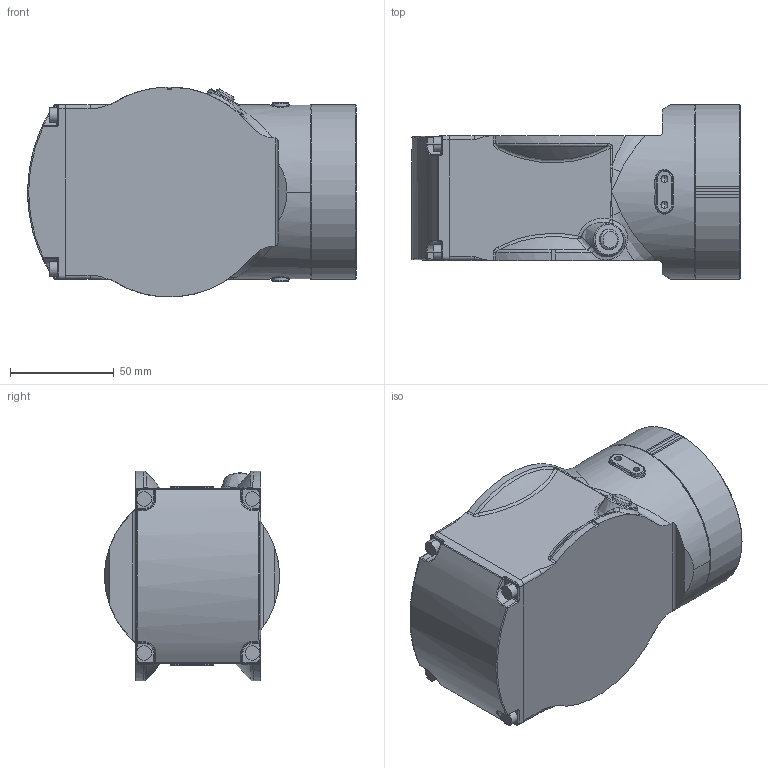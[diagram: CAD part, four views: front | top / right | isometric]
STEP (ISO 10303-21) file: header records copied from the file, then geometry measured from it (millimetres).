
FILE_DESCRIPTION (( 'STEP AP214' ), '1' );
FILE_NAME ('IRB1300 Type A_11Kg-900-Foundry-BTM_OC_00_link5.STEP', '2026-05-19T12:55:03', ( '' ), ( '' ), 'SwSTEP 2.0', 'SolidWorks 2024', '' );
FILE_SCHEMA (( 'AUTOMOTIVE_DESIGN' ));
Length unit declared in the file: millimetre
Products named in the file (1): IRB1300 Type A_11Kg-900-Foundry-BTM_OC_00_link5
Bounding box: 158 x 84 x 100.95 mm (x, y, z)
Volume: 752624.3 mm3; surface area: 59653 mm2
Topology: 1 solids, 9 shells, 336 faces, 834 edges, 503 vertices
Faces by surface type: cylinder 138, bspline 83, plane 68, cone 24, torus 14, sphere 9
Entity records: 18197 total; most frequent: CARTESIAN_POINT 10755, ORIENTED_EDGE 1636, DIRECTION 1491, EDGE_CURVE 818, AXIS2_PLACEMENT_3D 618, VERTEX_POINT 503, CIRCLE 364, EDGE_LOOP 355
